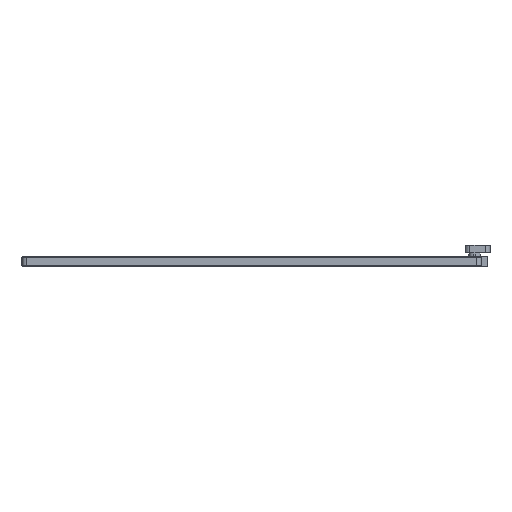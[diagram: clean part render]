
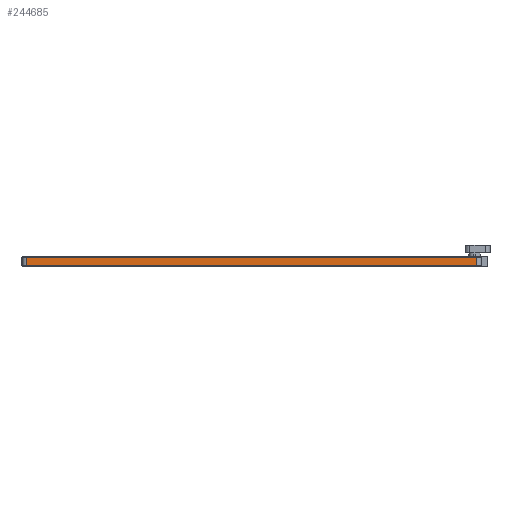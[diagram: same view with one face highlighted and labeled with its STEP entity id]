
A CAD part, left-side view. The second image highlights one B-rep face of the part: STEP entity #244685.
In plain terms, the highlighted planar face has unit normal (-1, 0, 0).
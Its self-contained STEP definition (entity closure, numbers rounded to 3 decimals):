
#1382 = PLANE('',#1383);
#1383 = AXIS2_PLACEMENT_3D('',#1384,#1385,#1386);
#1384 = CARTESIAN_POINT('',(0.6,2.9,2.1));
#1385 = DIRECTION('',(-0.707,0.,0.707));
#1386 = DIRECTION('',(-0.,-1.,-0.));
#85685 = VERTEX_POINT('',#85686);
#85686 = CARTESIAN_POINT('',(0.5,2.9,2.));
#85705 = EDGE_CURVE('',#85685,#85706,#85708,.T.);
#85706 = VERTEX_POINT('',#85707);
#85707 = CARTESIAN_POINT('',(0.5,99.1,2.));
#85708 = SURFACE_CURVE('',#85709,(#85713,#85720),.PCURVE_S1.);
#85709 = LINE('',#85710,#85711);
#85710 = CARTESIAN_POINT('',(0.5,2.9,2.));
#85711 = VECTOR('',#85712,1.);
#85712 = DIRECTION('',(0.,1.,0.));
#85713 = PCURVE('',#1382,#85714);
#85714 = DEFINITIONAL_REPRESENTATION('',(#85715),#85719);
#85715 = LINE('',#85716,#85717);
#85716 = CARTESIAN_POINT('',(-0.,-0.141));
#85717 = VECTOR('',#85718,1.);
#85718 = DIRECTION('',(-1.,0.));
#85719 = ( GEOMETRIC_REPRESENTATION_CONTEXT(2) 
PARAMETRIC_REPRESENTATION_CONTEXT() REPRESENTATION_CONTEXT('2D SPACE',''
  ) );
#85720 = PCURVE('',#85721,#85726);
#85721 = PLANE('',#85722);
#85722 = AXIS2_PLACEMENT_3D('',#85723,#85724,#85725);
#85723 = CARTESIAN_POINT('',(0.5,2.9,0.));
#85724 = DIRECTION('',(-1.,0.,0.));
#85725 = DIRECTION('',(0.,1.,0.));
#85726 = DEFINITIONAL_REPRESENTATION('',(#85727),#85731);
#85727 = LINE('',#85728,#85729);
#85728 = CARTESIAN_POINT('',(0.,-2.));
#85729 = VECTOR('',#85730,1.);
#85730 = DIRECTION('',(1.,0.));
#85731 = ( GEOMETRIC_REPRESENTATION_CONTEXT(2) 
PARAMETRIC_REPRESENTATION_CONTEXT() REPRESENTATION_CONTEXT('2D SPACE',''
  ) );
#85792 = CYLINDRICAL_SURFACE('',#85793,1.);
#85793 = AXIS2_PLACEMENT_3D('',#85794,#85795,#85796);
#85794 = CARTESIAN_POINT('',(1.5,2.9,0.));
#85795 = DIRECTION('',(-0.,-0.,-1.));
#85796 = DIRECTION('',(1.,0.,0.));
#85827 = CYLINDRICAL_SURFACE('',#85828,1.);
#85828 = AXIS2_PLACEMENT_3D('',#85829,#85830,#85831);
#85829 = CARTESIAN_POINT('',(1.5,99.1,0.));
#85830 = DIRECTION('',(-0.,-0.,-1.));
#85831 = DIRECTION('',(1.,0.,0.));
#244685 = ADVANCED_FACE('',(#244686),#85721,.T.);
#244686 = FACE_BOUND('',#244687,.T.);
#244687 = EDGE_LOOP('',(#244688,#244711,#244712,#244735));
#244688 = ORIENTED_EDGE('',*,*,#244689,.T.);
#244689 = EDGE_CURVE('',#244690,#85685,#244692,.T.);
#244690 = VERTEX_POINT('',#244691);
#244691 = CARTESIAN_POINT('',(0.5,2.9,0.2));
#244692 = SURFACE_CURVE('',#244693,(#244697,#244704),.PCURVE_S1.);
#244693 = LINE('',#244694,#244695);
#244694 = CARTESIAN_POINT('',(0.5,2.9,0.));
#244695 = VECTOR('',#244696,1.);
#244696 = DIRECTION('',(0.,0.,1.));
#244697 = PCURVE('',#85721,#244698);
#244698 = DEFINITIONAL_REPRESENTATION('',(#244699),#244703);
#244699 = LINE('',#244700,#244701);
#244700 = CARTESIAN_POINT('',(0.,0.));
#244701 = VECTOR('',#244702,1.);
#244702 = DIRECTION('',(0.,-1.));
#244703 = ( GEOMETRIC_REPRESENTATION_CONTEXT(2) 
PARAMETRIC_REPRESENTATION_CONTEXT() REPRESENTATION_CONTEXT('2D SPACE',''
  ) );
#244704 = PCURVE('',#85792,#244705);
#244705 = DEFINITIONAL_REPRESENTATION('',(#244706),#244710);
#244706 = LINE('',#244707,#244708);
#244707 = CARTESIAN_POINT('',(-3.142,0.));
#244708 = VECTOR('',#244709,1.);
#244709 = DIRECTION('',(-0.,-1.));
#244710 = ( GEOMETRIC_REPRESENTATION_CONTEXT(2) 
PARAMETRIC_REPRESENTATION_CONTEXT() REPRESENTATION_CONTEXT('2D SPACE',''
  ) );
#244711 = ORIENTED_EDGE('',*,*,#85705,.T.);
#244712 = ORIENTED_EDGE('',*,*,#244713,.F.);
#244713 = EDGE_CURVE('',#244714,#85706,#244716,.T.);
#244714 = VERTEX_POINT('',#244715);
#244715 = CARTESIAN_POINT('',(0.5,99.1,0.2));
#244716 = SURFACE_CURVE('',#244717,(#244721,#244728),.PCURVE_S1.);
#244717 = LINE('',#244718,#244719);
#244718 = CARTESIAN_POINT('',(0.5,99.1,0.));
#244719 = VECTOR('',#244720,1.);
#244720 = DIRECTION('',(0.,0.,1.));
#244721 = PCURVE('',#85721,#244722);
#244722 = DEFINITIONAL_REPRESENTATION('',(#244723),#244727);
#244723 = LINE('',#244724,#244725);
#244724 = CARTESIAN_POINT('',(96.2,0.));
#244725 = VECTOR('',#244726,1.);
#244726 = DIRECTION('',(0.,-1.));
#244727 = ( GEOMETRIC_REPRESENTATION_CONTEXT(2) 
PARAMETRIC_REPRESENTATION_CONTEXT() REPRESENTATION_CONTEXT('2D SPACE',''
  ) );
#244728 = PCURVE('',#85827,#244729);
#244729 = DEFINITIONAL_REPRESENTATION('',(#244730),#244734);
#244730 = LINE('',#244731,#244732);
#244731 = CARTESIAN_POINT('',(-3.142,0.));
#244732 = VECTOR('',#244733,1.);
#244733 = DIRECTION('',(-0.,-1.));
#244734 = ( GEOMETRIC_REPRESENTATION_CONTEXT(2) 
PARAMETRIC_REPRESENTATION_CONTEXT() REPRESENTATION_CONTEXT('2D SPACE',''
  ) );
#244735 = ORIENTED_EDGE('',*,*,#244736,.F.);
#244736 = EDGE_CURVE('',#244690,#244714,#244737,.T.);
#244737 = SURFACE_CURVE('',#244738,(#244742,#244749),.PCURVE_S1.);
#244738 = LINE('',#244739,#244740);
#244739 = CARTESIAN_POINT('',(0.5,2.9,0.2));
#244740 = VECTOR('',#244741,1.);
#244741 = DIRECTION('',(0.,1.,0.));
#244742 = PCURVE('',#85721,#244743);
#244743 = DEFINITIONAL_REPRESENTATION('',(#244744),#244748);
#244744 = LINE('',#244745,#244746);
#244745 = CARTESIAN_POINT('',(0.,-0.2));
#244746 = VECTOR('',#244747,1.);
#244747 = DIRECTION('',(1.,0.));
#244748 = ( GEOMETRIC_REPRESENTATION_CONTEXT(2) 
PARAMETRIC_REPRESENTATION_CONTEXT() REPRESENTATION_CONTEXT('2D SPACE',''
  ) );
#244749 = PCURVE('',#244750,#244755);
#244750 = PLANE('',#244751);
#244751 = AXIS2_PLACEMENT_3D('',#244752,#244753,#244754);
#244752 = CARTESIAN_POINT('',(0.6,2.9,0.1));
#244753 = DIRECTION('',(0.707,0.,
    0.707));
#244754 = DIRECTION('',(0.,-1.,0.));
#244755 = DEFINITIONAL_REPRESENTATION('',(#244756),#244760);
#244756 = LINE('',#244757,#244758);
#244757 = CARTESIAN_POINT('',(-0.,-0.141));
#244758 = VECTOR('',#244759,1.);
#244759 = DIRECTION('',(-1.,0.));
#244760 = ( GEOMETRIC_REPRESENTATION_CONTEXT(2) 
PARAMETRIC_REPRESENTATION_CONTEXT() REPRESENTATION_CONTEXT('2D SPACE',''
  ) );
